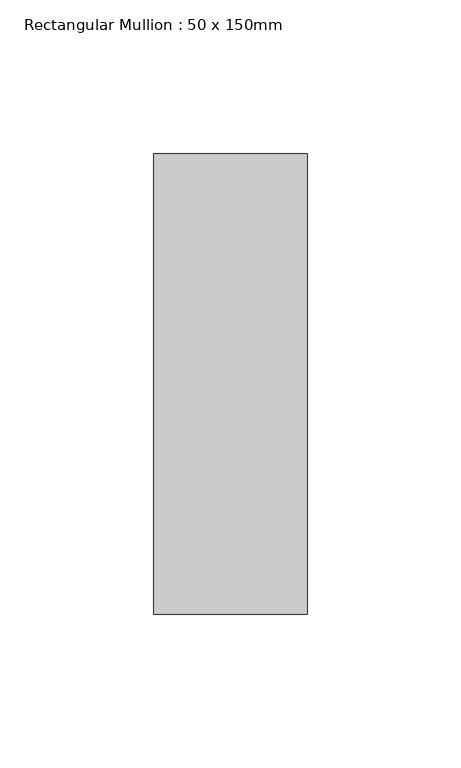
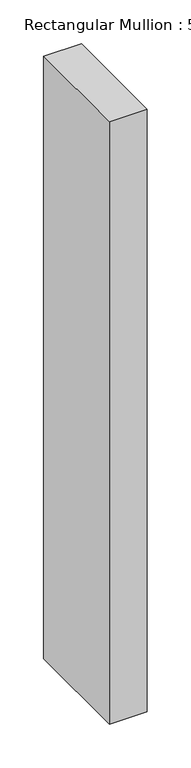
"""IFC4 building model written with IfcOpenShell, lengths in millimetres: member geometry, Rectangular Mullion : 50 x 150mm."""

from ifc_helpers import new_model, si_unit, frame, origin, place, context, project, spatial, polyline, outline, extrude, source, transform, mapped, element, save


def rectangular_mullion_50_x_150mm_e62fc784(model_context):
    return source(origin(), model_context, "Body", "SweptSolid", [
        extrude(outline(polyline([(25.0, 75.0), (25.0, -75.0), (-25.0, -75.0), (-25.0, 75.0), (25.0, 75.0)])), frame((0.0, 0.0, -839.4), z_axis=(0.0, 0.0, 1.0), x_axis=(1.0, 0.0, 0.0)), (0.0, 0.0, 1.0), 839.4),
    ])


if __name__ == "__main__":
    model = new_model("IFC4")
    model_context = context("Model", 3, world=origin())
    ifc_project = project(units=[si_unit("LENGTHUNIT", "METRE", prefix="MILLI")], contexts=[model_context])
    site = spatial("IfcSite", under=ifc_project)
    building = spatial("IfcBuilding", under=site)
    placement = place(None, origin())
    rectangular_mullion_50_x_150mm_shape = rectangular_mullion_50_x_150mm_e62fc784(model_context)
    element("IfcMember", 1, ObjectType="Rectangular Mullion : 50 x 150mm", at=placement, inside=building, context=model_context, shape_type="MappedRepresentation", body=[
        mapped(rectangular_mullion_50_x_150mm_shape, transform((0.0, 0.0, 0.0), x_axis=(1.0, 0.0, 0.0), y_axis=(0.0, 1.0, 0.0), z_axis=(0.0, 0.0, 1.0))),
    ])
    save(model, "model.ifc")
